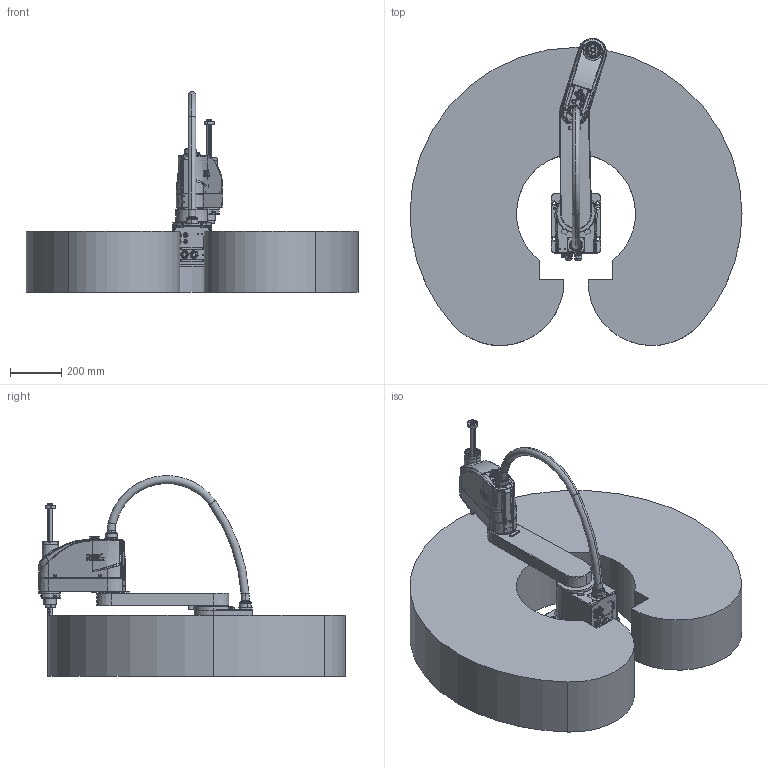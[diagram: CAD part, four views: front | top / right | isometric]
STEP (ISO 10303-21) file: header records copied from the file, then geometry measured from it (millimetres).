
FILE_DESCRIPTION (( 'STEP AP203' ), '1' );
FILE_NAME ('1.230B6.00.000.D Python650-B6陔俋夤蚾饜极.STEP', '2024-05-13T01:06:52', ( '' ), ( '' ), 'SwSTEP 2.0', 'SolidWorks 2021', '' );
FILE_SCHEMA (( 'CONFIG_CONTROL_DESIGN' ));
Length unit declared in the file: millimetre
Products named in the file (7): 1.230B6.00.000.D Python650-B6陔俋夤蚾饜极; 复件 Python650-B6新外观大臂装配体^1.230B6.00.000.D Python650-B6新外观装配体; 复件 Python-B6新外观小臂装配体^1.230B6.00.000.D Python650-B6新外观装配体; 复件 Python650-B6铸件工作空间^1.230B6.00.000.D Python650-B6新外观装配体; 复件 Python650-B6新外观波纹管^1.230B6.00.000.D Python650-B6新外观装配体; 复件 null-Python-B6新外观底座装配体-^1.230B6.00.000.D Python650-B6新外观装配体; 复件 Python-B6新外观滚珠丝杆花键轴装配体^1.230B6.00.000.D Python650-B6新外观装配体
Assembly tree (6 placements, depth 2):
  1.230B6.00.000.D Python650-B6陔俋夤蚾饜极
    复件 null-Python-B6新外观底座装配体-^1.230B6.00.000.D Python650-B6新外观装配体
    复件 Python650-B6新外观大臂装配体^1.230B6.00.000.D Python650-B6新外观装配体
    复件 Python-B6新外观小臂装配体^1.230B6.00.000.D Python650-B6新外观装配体
    复件 Python-B6新外观滚珠丝杆花键轴装配体^1.230B6.00.000.D Python650-B6新外观装配体
    复件 Python650-B6新外观波纹管^1.230B6.00.000.D Python650-B6新外观装配体
    复件 Python650-B6铸件工作空间^1.230B6.00.000.D Python650-B6新外观装配体
Bounding box: 1300 x 1202.75 x 785.79 mm (x, y, z)
Volume: 256575483.5 mm3; surface area: 4551893.4 mm2
Topology: 56 solids, 56 shells, 2397 faces, 6020 edges, 3888 vertices
Faces by surface type: cylinder 860, plane 748, bspline 363, cone 332, torus 94
Entity records: 99318 total; most frequent: CARTESIAN_POINT 42778, ORIENTED_EDGE 11976, DIRECTION 11093, EDGE_CURVE 5988, AXIS2_PLACEMENT_3D 4445, VERTEX_POINT 3888, EDGE_LOOP 2842, CIRCLE 2402
